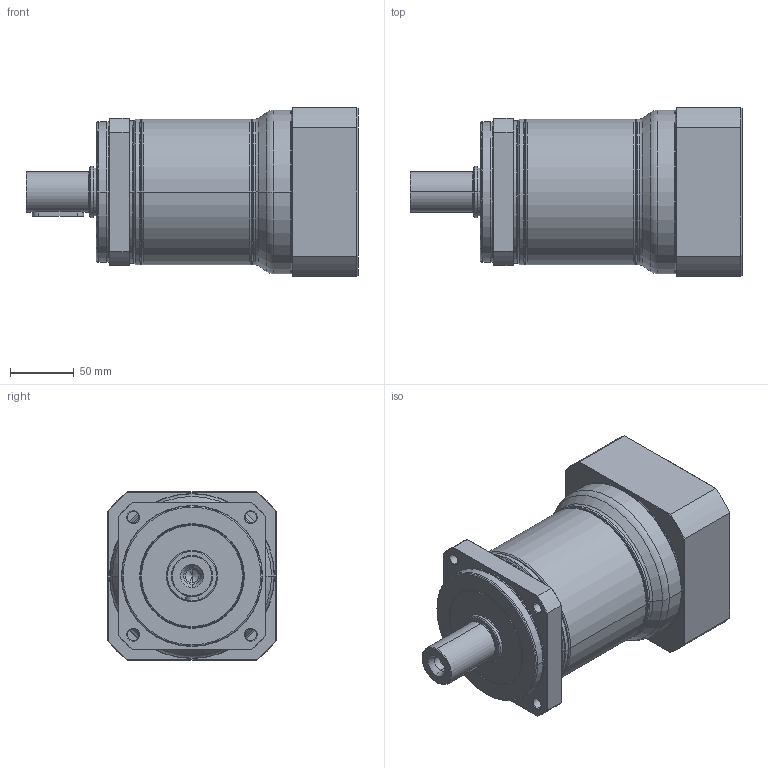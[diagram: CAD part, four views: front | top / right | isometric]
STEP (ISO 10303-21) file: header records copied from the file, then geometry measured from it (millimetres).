
FILE_DESCRIPTION((''),'2;1');
FILE_NAME('PA2-115_2ST_35-P0411800101_ASM','2016-05-11T',('d01943'),(''),'PRO/ENGINEER BY PARAMETRIC TECHNOLOGY CORPORATION, 2008410','PRO/ENGINEER BY PARAMETRIC TECHNOLOGY CORPORATION, 2008410','');
FILE_SCHEMA(('CONFIG_CONTROL_DESIGN'));
Length unit declared in the file: millimetre
Products named in the file (9): P1327410001; P0251400001; P1324400401; P0350400601; P0941404001; P0503800010; P0411800101; P1702600001; PA2-115_2ST_35-P0411800101_ASM
Assembly tree (8 placements, depth 2):
  PA2-115_2ST_35-P0411800101_ASM
    P1327410001
    P0251400001
    P1324400401
    P0350400601
    P0941404001
    P0503800010
    P0411800101
    P1702600001
Bounding box: 259.5 x 132 x 132 mm (x, y, z)
Volume: 1675757.6 mm3; surface area: 294435.4 mm2
Topology: 8 solids, 8 shells, 478 faces, 1042 edges, 600 vertices
Faces by surface type: cone 148, cylinder 135, torus 92, plane 87, bspline 16
Entity records: 17783 total; most frequent: CARTESIAN_POINT 7044, DIRECTION 2436, ORIENTED_EDGE 2044, AXIS2_PLACEMENT_3D 1040, EDGE_CURVE 1022, VERTEX_POINT 600, CIRCLE 561, EDGE_LOOP 542
